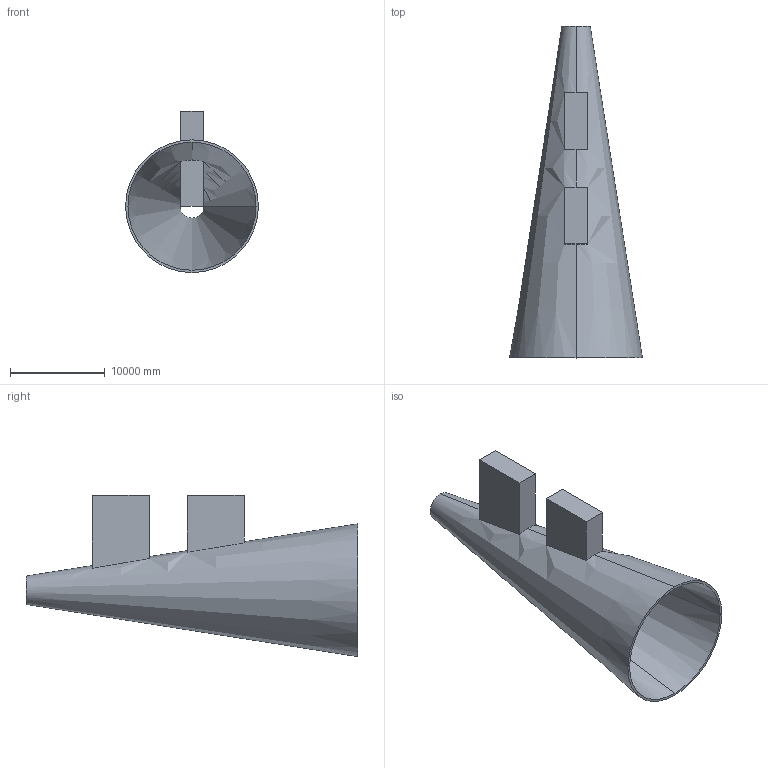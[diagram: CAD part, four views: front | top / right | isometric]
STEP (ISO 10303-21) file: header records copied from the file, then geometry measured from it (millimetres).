
FILE_DESCRIPTION (( 'STEP AP203' ), '1' );
FILE_NAME ('EP_04_Lightning_And_Wind_Arrestor_Tower.STEP', '2026-10-28T18:31:45', ( '' ), ( '' ), 'SwSTEP 2.0', 'SolidWorks 2026', '' );
FILE_SCHEMA (( 'CONFIG_CONTROL_DESIGN' ));
Length unit declared in the file: inch
Products named in the file (1): EP_04_Lightning_And_Wind_Arrestor_Tower
Bounding box: 14000 x 35000 x 17000 mm (x, y, z)
Volume: 507427918169.2 mm3; surface area: 2192155396.5 mm2
Topology: 1 solids, 1 shells, 30 faces, 84 edges, 56 vertices
Faces by surface type: plane 24, cone 6
Entity records: 1133 total; most frequent: CARTESIAN_POINT 265, ORIENTED_EDGE 168, DIRECTION 166, EDGE_CURVE 84, AXIS2_PLACEMENT_3D 59, VERTEX_POINT 56, VECTOR 48, LINE 48
